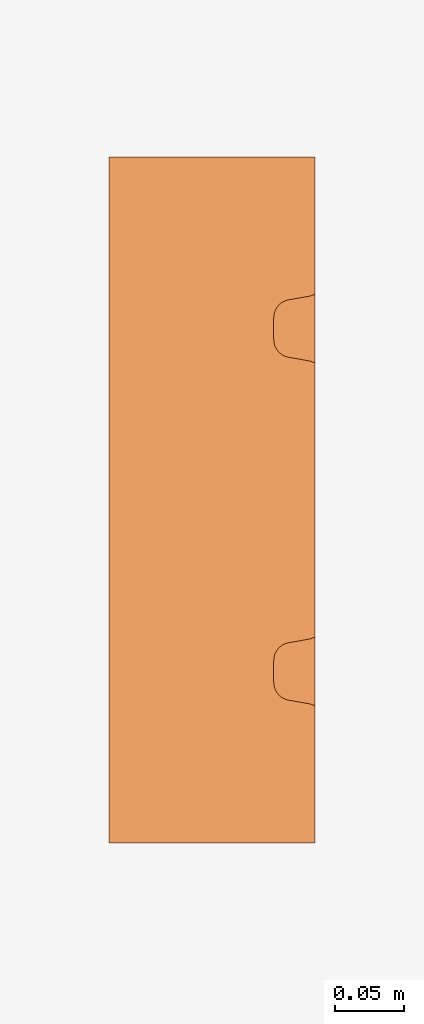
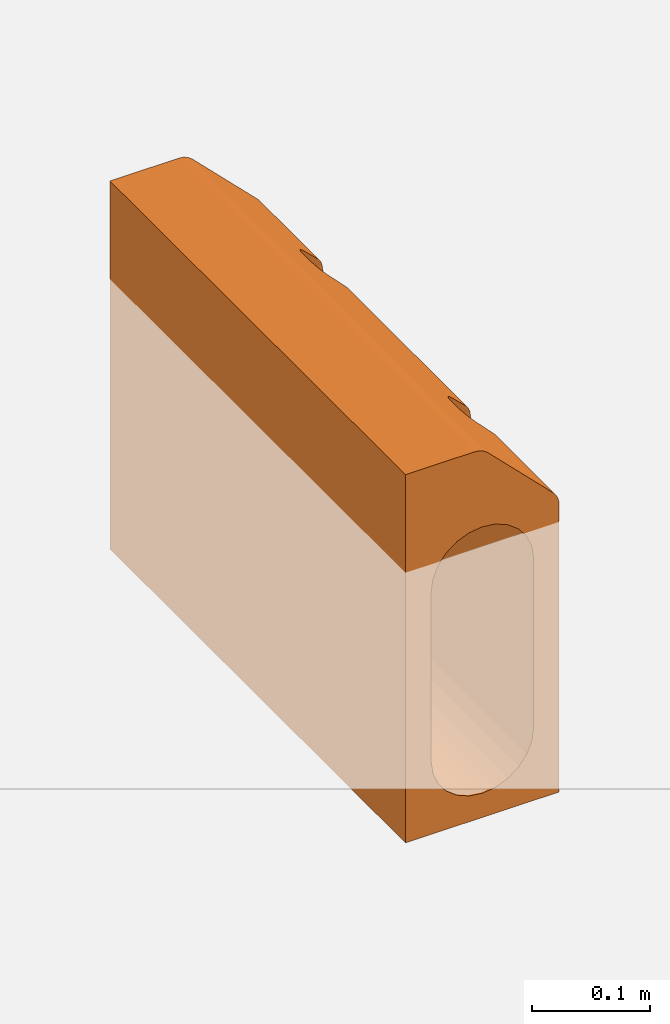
# One storey, part 2 of 2: 1 proxy.
"""IFC2X3 building model written with IfcOpenShell, lengths in millimetres."""

from ifc_helpers import new_model, entity, si_unit, converted_unit, direction, frame, origin, place, context, subcontext, project, spatial, faceted_brep, source, transform, mapped, material, element, save


model = new_model("IFC2X3")

# Units and contexts
model_context = context("Model", 3, precision=1e-06, world=origin(), true_north=direction((2.0, 6.12303176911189e-17, 1.0)))
context_of_model = context(None, 3, precision=1e-06, world=origin(), true_north=direction((2.0, 6.12303176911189e-17, 1.0)))
body_context = subcontext(model_context, "Body", "Model", "MODEL_VIEW")
ifc_project = project(units=[si_unit("LENGTHUNIT", "METRE", prefix="MILLI"), si_unit("AREAUNIT", "SQUARE_METRE", prefix="MILLI"), si_unit("VOLUMEUNIT", "CUBIC_METRE", prefix="MILLI"), converted_unit("PLANEANGLEUNIT", "DEGREE", entity("IfcRatioMeasure", 0.0174532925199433), si_unit("PLANEANGLEUNIT", "RADIAN"), dimensions=[0, 0, 0, 0, 0, 0, 0]), si_unit("TIMEUNIT", "SECOND")], contexts=[model_context, context_of_model])

# Site, building, storey
site_placement = place(None, origin())
site = spatial("IfcSite", under=ifc_project, at=site_placement, Name="Default", CompositionType="ELEMENT")
building_placement = place(site_placement, origin())
building = spatial("IfcBuilding", under=site, at=building_placement, CompositionType="ELEMENT")
storey_placement = place(building_placement, origin())
storey = spatial("IfcBuildingStorey", under=building, at=storey_placement, Name="Level 1", CompositionType="ELEMENT", Elevation=0.0)

# Proxy
ifc_material = material(Name="ACO Polymer Concrete.")
shared_shape = source(origin(), body_context, "Body", "Brep", [
    faceted_brep([(0.0, 149.975518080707, 20.0), (0.0, 149.732504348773, 23.1416949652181), (0.0, 149.090392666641, 26.2478408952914), (0.0, 100.024481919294, 20.0), (0.0, 145.924978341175, 44.1997976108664), (0.0, 145.056221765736, 47.101646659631), (0.0, 143.541670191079, 49.7249269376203), (0.0, 141.462973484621, 51.9282167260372), (0.0, 133.077147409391, 54.9804078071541), (0.0, 125.0, 54.9804078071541), (0.0, 138.932194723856, 53.5927361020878), (0.0, 136.085768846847, 54.6287503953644), (0.0, 104.075021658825, 44.1997976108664), (0.0, 100.909607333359, 26.2478408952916), (0.0, 100.267495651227, 23.141694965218), (0.0, 106.458329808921, 49.7249269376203), (0.0, 104.943778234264, 47.1016466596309), (0.0, 108.537026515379, 51.9282167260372), (0.0, 116.922852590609, 54.9804078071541), (0.0, 113.914231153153, 54.6287503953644), (0.0, 111.067805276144, 53.5927361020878), (75.0, 500.0, 17.1299423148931), (74.3525906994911, 500.0, 22.047504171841), (74.4002409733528, 399.879345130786, 21.866093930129), (75.0, 399.850708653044, 17.1299423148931), (72.6692508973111, 399.090392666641, 26.2478408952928), (72.4544826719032, 500.0, 26.6299423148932), (69.4350288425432, 500.0, 30.5649711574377), (71.20612764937, 398.689438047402, 28.5217675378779), (69.4350288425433, 398.329166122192, 30.5649711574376), (75.0, 100.149291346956, 17.1299423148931), (74.4002409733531, 100.120654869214, 21.8660939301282), (75.0, 0.0, 17.1299423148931), (74.3525906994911, 0.0, 22.047504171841), (72.6692508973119, 100.909607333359, 26.2478408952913), (71.2061276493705, 101.310561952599, 28.5217675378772), (69.4350288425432, 101.670833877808, 30.5649711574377), (69.4350288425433, 0.0, 30.5649711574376), (72.4544826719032, 0.0, 26.6299423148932), (-75.0, 500.0, -280.0), (-35.355339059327, 500.0, -240.355339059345), (-25.0, 500.0, -248.301270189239), (-43.3012701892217, 500.0, -230.0), (-12.9409522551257, 500.0, -253.296291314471), (0.0, 500.0, -255.0), (-50.0, 500.0, -30.0), (-50.0, 500.0, -205.0), (-75.0, 500.0, 100.0), (-48.2962913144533, 500.0, -217.940952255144), (-48.2962913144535, 500.0, -17.059047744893), (12.9409522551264, 500.0, -253.296291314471), (75.0, 500.0, -280.0), (25.0, 500.0, -248.301270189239), (35.3553390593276, 500.0, -240.355339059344), (43.3012701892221, 500.0, -230.0), (50.0, 500.0, -205.0), (50.0, 500.0, -30.0), (48.2962913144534, 500.0, -217.940952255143), (-35.3553390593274, 500.0, 5.35533905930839), (-43.301270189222, 500.0, -5.0), (-12.9409522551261, 500.0, 18.2962913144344), (-25.0, 500.0, 13.3012701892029), (-7.87005768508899, 500.0, 100.0), (5.56497115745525, 500.0, 94.4350288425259), (0.0, 500.0, 20.0), (-2.95249582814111, 500.0, 99.3525906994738), (1.62994231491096, 500.0, 97.4544826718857), (35.3553390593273, 500.0, 5.35533905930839), (30.1776695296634, 500.0, 9.32830462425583), (48.2962913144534, 500.0, -17.059047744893), (43.3012701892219, 500.0, -5.0), (39.3283046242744, 500.0, 0.17766952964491), (12.940952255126, 500.0, 18.2962913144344), (6.4704761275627, 500.0, 19.1481456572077), (25.0, 500.0, 13.3012701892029), (18.9704761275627, 500.0, 15.7987807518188), (-7.87005768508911, 0.0, 100.0), (5.56497115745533, 0.0, 94.4350288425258), (1.62994231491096, 0.0, 97.4544826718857), (-2.95249582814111, 0.0, 99.3525906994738), (-75.0, 0.0, 100.0), (-25.0, 0.0, 13.3012701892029), (-12.9409522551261, 0.0, 18.2962913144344), (-43.301270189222, 0.0, -5.0), (-35.3553390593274, 0.0, 5.35533905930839), (0.0, 0.0, 20.0), (-48.2962913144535, 0.0, -17.059047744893), (12.940952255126, 0.0, 18.2962913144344), (18.9704761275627, 0.0, 15.7987807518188), (25.0, 0.0, 13.3012701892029), (30.1776695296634, 0.0, 9.32830462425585), (35.3553390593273, 0.0, 5.35533905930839), (39.3283046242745, 0.0, 0.177669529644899), (43.3012701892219, 0.0, -5.0), (48.2962913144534, 0.0, -17.059047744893), (6.47047612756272, 0.0, 19.1481456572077), (-50.0, 0.0, -205.0), (-50.0, 0.0, -30.0), (-75.0, 0.0, -280.0), (-48.2962913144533, 0.0, -217.940952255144), (-43.3012701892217, 0.0, -230.0), (-35.355339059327, 0.0, -240.355339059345), (-25.0, 0.0, -248.301270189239), (-12.9409522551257, 0.0, -253.296291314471), (0.0, 0.0, -255.0), (75.0, 0.0, -280.0), (50.0, 0.0, -205.0), (48.2962913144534, 0.0, -217.940952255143), (43.3012701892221, 0.0, -230.0), (50.0, 0.0, -30.0), (12.9409522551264, 0.0, -253.296291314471), (35.3553390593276, 0.0, -240.355339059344), (25.0, 0.0, -248.301270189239), (0.0, 399.975518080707, 20.0), (0.0, 399.732504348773, 23.1416949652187), (0.0, 399.090392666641, 26.2478408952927), (0.0, 350.024481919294, 20.0), (0.0, 395.924978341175, 44.1997976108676), (0.0, 395.056221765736, 47.1016466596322), (0.0, 393.541670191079, 49.7249269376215), (0.0, 391.462973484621, 51.9282167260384), (0.0, 383.077147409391, 54.9804078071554), (0.0, 375.0, 54.9804078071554), (0.0, 388.932194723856, 53.592736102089), (0.0, 386.085768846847, 54.6287503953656), (0.0, 354.075021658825, 44.1997976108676), (0.0, 350.909607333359, 26.247840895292), (0.0, 350.267495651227, 23.1416949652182), (0.0, 356.458329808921, 49.7249269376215), (0.0, 354.943778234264, 47.1016466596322), (0.0, 358.537026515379, 51.9282167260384), (0.0, 366.922852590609, 54.9804078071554), (0.0, 363.914231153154, 54.6287503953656), (0.0, 361.067805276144, 53.592736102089), (8.76328451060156, 100.02557680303, 19.2260585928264), (21.2051679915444, 100.518872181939, 15.0683874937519), (25.1680716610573, 100.867702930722, 13.2037980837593), (35.0079638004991, 104.70744782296, 5.4810567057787), (37.813817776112, 106.640243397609, 2.71261507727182), (32.2021098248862, 102.77465224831, 8.24949833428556), (13.0027744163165, 100.097809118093, 18.0795177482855), (17.2422643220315, 100.170041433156, 16.9329769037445), (4.38164225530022, 100.025029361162, 19.6130292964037), (17.2422643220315, 149.829958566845, 16.9329769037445), (8.76328451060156, 149.97442319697, 19.2260585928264), (8.76328451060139, 350.02557680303, 19.2260585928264), (17.2422643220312, 350.170041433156, 16.9329769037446), (25.1680716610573, 149.132297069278, 13.2037980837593), (25.1680716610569, 350.867702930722, 13.2037980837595), (21.205167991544, 399.481127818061, 15.0683874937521), (17.2422643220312, 399.829958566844, 16.9329769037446), (13.0027744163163, 399.902190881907, 18.0795177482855), (8.76328451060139, 399.97442319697, 19.2260585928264), (4.38164225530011, 399.974970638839, 19.6130292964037), (28.6850907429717, 101.821177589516, 10.7266482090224), (32.2021098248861, 147.22534775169, 8.24949833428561), (32.2021098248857, 352.77465224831, 8.24949833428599), (37.813817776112, 143.359756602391, 2.71261507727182), (37.8138177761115, 356.64024339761, 2.71261507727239), (41.5463784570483, 112.859964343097, -2.18096987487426), (43.3012701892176, 120.955441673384, -5.0), (43.3012701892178, 129.044558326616, -5.0), (43.3012701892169, 370.955441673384, -5.0), (37.8138177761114, 393.359756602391, 2.71261507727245), (41.5463784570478, 387.140035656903, -2.18096987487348), (25.1680716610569, 399.132297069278, 13.2037980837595), (41.5463784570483, 137.140035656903, -2.18096987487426), (41.5463784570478, 362.859964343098, -2.18096987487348), (28.6850907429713, 398.178822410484, 10.7266482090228), (32.2021098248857, 397.22534775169, 8.24949833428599), (35.0079638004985, 395.292552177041, 5.48105670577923), (43.3012701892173, 379.044558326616, -5.0), (75.0, 114.722162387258, -3.11709981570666), (75.0, 120.955441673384, -5.0), (75.0, 109.187345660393, 0.312898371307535), (75.0, 129.044558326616, -5.0), (75.0, 140.812654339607, 0.312898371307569), (75.0, 135.277837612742, -3.11709981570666), (75.0, 364.722162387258, -3.11709981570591), (75.0, 359.187345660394, 0.312898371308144), (75.0, 354.727127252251, 5.05689832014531), (75.0, 145.27287274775, 5.05689832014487), (75.0, 101.644615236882, 10.7925066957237), (75.0, 104.727127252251, 5.05689832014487), (75.0, 351.644615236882, 10.7925066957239), (75.0, 149.850708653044, 17.1299423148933), (75.0, 148.355384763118, 10.7925066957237), (75.0, 370.955441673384, -5.0), (75.0, 385.277837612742, -3.11709981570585), (75.0, 379.044558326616, -5.0), (75.0, 390.812654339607, 0.312898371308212), (75.0, 350.149291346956, 17.1299423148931), (75.0, 274.049531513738, 17.1299423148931), (75.0, 211.950312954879, 17.1299423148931), (75.0, 398.355384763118, 10.7925066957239), (75.0, 395.272872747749, 5.05689832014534), (69.4350288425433, 148.329166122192, 30.5649711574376), (71.2061276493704, 148.689438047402, 28.5217675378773), (69.4350288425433, 224.428802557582, 30.5649711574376), (71.9592954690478, 209.218480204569, 27.4401745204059), (74.2106529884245, 241.48801231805, 22.549547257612), (71.9538163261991, 273.321126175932, 27.4486507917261), (74.400240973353, 350.120654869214, 21.8660939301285), (74.6738387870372, 291.409535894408, 20.6353303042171), (72.6692508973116, 350.909607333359, 26.2478408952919), (73.6587754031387, 299.219133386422, 24.1419071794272), (74.400240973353, 149.879345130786, 21.8660939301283), (72.6692508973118, 149.090392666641, 26.2478408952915), (71.2061276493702, 351.310561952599, 28.5217675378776), (69.4350288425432, 288.049818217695, 30.5649711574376), (69.4350288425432, 351.670833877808, 30.5649711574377), (55.8002023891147, 104.075021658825, 44.1997976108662), (53.2993718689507, 104.778646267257, 46.7006281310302), (50.987547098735, 105.963849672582, 49.0124529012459), (55.8002023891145, 145.924978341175, 44.1997976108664), (50.9875470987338, 355.963849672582, 49.0124529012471), (50.987547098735, 144.036150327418, 49.0124529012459), (53.2993718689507, 145.221353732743, 46.7006281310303), (53.2993718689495, 354.778646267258, 46.7006281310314), (55.8002023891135, 354.075021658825, 44.1997976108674), (48.9564035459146, 107.583632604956, 51.0435964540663), (47.2864862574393, 109.573762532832, 52.7135137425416), (46.0440158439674, 111.855320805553, 53.9559841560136), (45.2782624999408, 114.337832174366, 54.7217375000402), (45.0195921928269, 116.922852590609, 54.9804078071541), (45.0195921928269, 125.0, 54.9804078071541), (45.0195921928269, 133.077147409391, 54.9804078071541), (47.2864862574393, 140.426237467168, 52.7135137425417), (48.9564035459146, 142.416367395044, 51.0435964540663), (47.2864862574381, 359.573762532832, 52.7135137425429), (46.0440158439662, 361.855320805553, 53.9559841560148), (46.0440158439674, 138.144679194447, 53.9559841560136), (45.2782624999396, 364.337832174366, 54.7217375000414), (45.2782624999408, 135.662167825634, 54.7217375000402), (5.56497115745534, 423.900061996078, 94.4350288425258), (5.56497115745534, 347.800127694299, 94.4350288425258), (48.9564035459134, 357.583632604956, 51.0435964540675), (55.8002023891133, 395.924978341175, 44.1997976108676), (53.2993718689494, 395.221353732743, 46.7006281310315), (50.9875470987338, 394.036150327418, 49.0124529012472), (48.9564035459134, 392.416367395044, 51.0435964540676), (45.0195921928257, 366.922852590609, 54.9804078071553), (46.0440158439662, 388.144679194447, 53.9559841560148), (47.2864862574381, 390.426237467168, 52.7135137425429), (45.2782624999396, 385.662167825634, 54.7217375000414), (45.0195921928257, 375.0, 54.9804078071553), (45.0195921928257, 383.077147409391, 54.9804078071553), (-7.87005768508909, 423.90006193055, 100.0), (-2.60138830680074, 436.358183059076, 99.2548931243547), (-4.42459626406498, 379.790654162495, 99.6849885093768), (-0.599072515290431, 382.233262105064, 98.5537111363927), (1.08913984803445, 437.734711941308, 97.7550822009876), (-4.53194638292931, 114.149901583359, 99.7044650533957), (-2.35753488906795, 62.2652857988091, 99.1827416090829), (-0.599072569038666, 117.766733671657, 98.553711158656), (1.31258906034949, 63.6418145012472, 97.6336706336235), (-7.87005768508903, 152.199862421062, 100.0), (-3.00379585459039, 201.099933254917, 99.3662597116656), (5.56497115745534, 97.800127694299, 94.4350288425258), (1.08758675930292, 178.307130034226, 97.7559125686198), (2.78017236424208, 118.678927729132, 96.7344399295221), (1.44889748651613, 318.33849390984, 97.5576892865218), (-2.76687852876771, 295.349324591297, 99.3018458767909), (1.69337411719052, 244.901027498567, 97.4176969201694), (2.99559514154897, 385.850094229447, 96.5864552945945), (-7.87005768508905, 249.999993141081, 100.0), (-7.87005768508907, 347.800123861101, 100.0), (-7.87005768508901, 76.099924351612, 100.0), (5.56497115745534, 271.70019339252, 94.4350288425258), (5.56497115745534, 195.600255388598, 94.4350288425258)], [[[0, 1, 2, 3]], [[4, 5, 6, 7]], [[4, 8, 9, 2]], [[4, 7, 10, 11]], [[11, 8, 4]], [[9, 12, 13, 2]], [[13, 14, 3, 2]], [[15, 16, 12, 17]], [[18, 19, 12, 9]], [[20, 17, 12, 19]], [[21, 22, 23]], [[23, 24, 21]], [[22, 25, 23]], [[26, 27, 28]], [[26, 28, 25]], [[28, 27, 29]], [[26, 25, 22]], [[30, 31, 32]], [[33, 32, 31]], [[31, 34, 33]], [[35, 36, 37]], [[35, 38, 34]], [[38, 35, 37]], [[34, 38, 33]], [[39, 40, 41]], [[40, 39, 42]], [[41, 43, 39]], [[39, 43, 44]], [[45, 46, 39, 47]], [[48, 42, 39]], [[45, 47, 49]], [[46, 48, 39]], [[44, 50, 51, 39]], [[51, 52, 53]], [[52, 51, 50]], [[53, 54, 51]], [[21, 51, 55, 56]], [[57, 55, 51]], [[54, 57, 51]], [[58, 59, 47]], [[60, 61, 62, 63]], [[61, 58, 47, 62]], [[60, 63, 64]], [[62, 65, 66, 63]], [[59, 49, 47]], [[27, 21, 67, 68]], [[69, 70, 21]], [[21, 70, 71, 67]], [[69, 21, 56]], [[63, 27, 72, 73]], [[27, 26, 22, 21]], [[27, 74, 75, 72]], [[76, 77, 78, 79]], [[76, 80, 81, 82]], [[83, 84, 80]], [[77, 76, 82, 85]], [[84, 81, 80]], [[80, 86, 83]], [[37, 32, 33, 38]], [[37, 77, 87, 88]], [[37, 89, 90, 91]], [[91, 92, 32, 37]], [[32, 93, 94]], [[77, 85, 95, 87]], [[96, 97, 98]], [[96, 98, 99]], [[97, 86, 80, 98]], [[100, 98, 101]], [[98, 100, 99]], [[102, 101, 98]], [[103, 102, 98]], [[104, 103, 98, 105]], [[106, 107, 105, 32]], [[108, 105, 107]], [[94, 109, 32]], [[110, 104, 105]], [[111, 112, 105]], [[105, 112, 110]], [[111, 105, 108]], [[106, 32, 109]], [[39, 98, 80, 47]], [[105, 98, 39, 51]], [[55, 106, 109, 56]], [[108, 107, 57, 54]], [[111, 108, 54, 53]], [[110, 112, 52, 50]], [[112, 111, 53, 52]], [[104, 110, 50, 44]], [[107, 106, 55, 57]], [[102, 103, 43, 41]], [[101, 102, 41, 40]], [[99, 100, 42, 48]], [[100, 101, 40, 42]], [[96, 99, 48, 46]], [[44, 43, 103, 104]], [[45, 97, 96, 46]], [[113, 114, 115, 116]], [[117, 118, 119, 120]], [[117, 121, 122, 115]], [[117, 120, 123, 124]], [[124, 121, 117]], [[122, 125, 126, 115]], [[126, 127, 116, 115]], [[128, 129, 125, 130]], [[131, 132, 125, 122]], [[133, 130, 125, 132]], [[81, 84, 58, 61]], [[82, 81, 61, 60]], [[86, 97, 45, 49]], [[83, 86, 49, 59]], [[84, 83, 59, 58]], [[82, 0, 3, 85]], [[87, 95, 134]], [[135, 136, 89]], [[137, 138, 91, 139]], [[87, 134, 140, 141]], [[142, 134, 95]], [[143, 144, 145, 146]], [[147, 143, 146, 148]], [[142, 95, 85]], [[149, 150, 75]], [[0, 82, 60, 116]], [[3, 142, 85]], [[144, 0, 116, 145]], [[72, 150, 151, 152]], [[60, 64, 113, 116]], [[73, 152, 153]], [[153, 113, 64]], [[154, 139, 90]], [[72, 75, 150]], [[88, 141, 135]], [[90, 89, 154]], [[91, 90, 139]], [[155, 147, 148, 156]], [[73, 153, 64]], [[88, 135, 89]], [[157, 155, 156, 158]], [[92, 159, 93]], [[94, 93, 160, 161]], [[94, 161, 162, 69]], [[136, 154, 89]], [[163, 71, 164]], [[165, 149, 74]], [[160, 93, 159]], [[161, 166, 167, 162]], [[109, 94, 69, 56]], [[92, 138, 159]], [[166, 157, 158, 167]], [[68, 168, 74]], [[68, 169, 168]], [[75, 74, 149]], [[168, 165, 74]], [[67, 163, 170, 169]], [[92, 91, 138]], [[68, 67, 169]], [[73, 72, 152]], [[69, 162, 171, 70]], [[70, 171, 164]], [[67, 71, 163]], [[71, 70, 164]], [[88, 87, 141]], [[172, 32, 105, 173]], [[32, 172, 174]], [[175, 173, 105]], [[176, 177, 178, 179]], [[177, 175, 105, 51]], [[180, 181, 176, 179]], [[32, 182, 30]], [[182, 32, 183]], [[184, 185, 186, 180]], [[186, 181, 180]], [[32, 174, 183]], [[51, 187, 178, 177]], [[188, 189, 51, 21]], [[51, 189, 187]], [[21, 190, 188]], [[184, 191, 192, 193]], [[194, 195, 21]], [[21, 24, 194]], [[195, 190, 21]], [[196, 197, 198]], [[199, 200, 201]], [[191, 202, 203]], [[204, 205, 202]], [[193, 206, 185]], [[199, 198, 197]], [[205, 201, 200]], [[197, 207, 199]], [[203, 200, 192]], [[207, 200, 199]], [[208, 201, 204]], [[198, 199, 201]], [[200, 207, 206]], [[201, 205, 204]], [[208, 209, 201]], [[206, 193, 200]], [[200, 203, 205]], [[191, 203, 192]], [[202, 205, 203]], [[209, 208, 210]], [[209, 198, 201]], [[193, 192, 200]], [[37, 36, 211]], [[212, 77, 37, 211]], [[213, 77, 212]], [[214, 196, 198, 209]], [[215, 216, 217, 218]], [[219, 217, 214, 210]], [[77, 213, 220]], [[221, 222, 77]], [[77, 223, 224]], [[223, 77, 222]], [[77, 224, 225, 226]], [[221, 77, 220]], [[227, 228, 229, 230]], [[231, 227, 230, 232]], [[226, 233, 77]], [[231, 232, 233]], [[233, 63, 234, 235]], [[228, 216, 236, 229]], [[219, 218, 217]], [[29, 27, 237]], [[238, 237, 27, 63]], [[63, 239, 238]], [[239, 63, 240]], [[232, 241, 63, 233]], [[242, 243, 63]], [[244, 242, 63]], [[245, 246, 63, 241]], [[63, 246, 244]], [[243, 240, 63]], [[215, 236, 216]], [[62, 247, 248]], [[248, 249, 250]], [[234, 63, 66]], [[251, 65, 248]], [[252, 253, 254]], [[255, 253, 78]], [[256, 252, 257]], [[255, 254, 253]], [[258, 255, 77]], [[259, 254, 260]], [[261, 262, 263]], [[264, 251, 250]], [[256, 257, 265]], [[265, 257, 262]], [[262, 266, 265]], [[267, 252, 256]], [[254, 255, 260]], [[267, 76, 79]], [[235, 234, 264]], [[248, 250, 251]], [[235, 264, 261]], [[262, 257, 263]], [[262, 250, 249]], [[259, 257, 254]], [[268, 235, 261]], [[253, 267, 79]], [[257, 252, 254]], [[267, 253, 252]], [[78, 253, 79]], [[77, 255, 78]], [[260, 255, 258]], [[258, 269, 260]], [[259, 269, 263]], [[269, 259, 260]], [[257, 259, 263]], [[251, 234, 66]], [[261, 264, 250]], [[262, 261, 250]], [[263, 268, 261]], [[234, 251, 264]], [[65, 251, 66]], [[62, 248, 65]], [[249, 247, 266]], [[247, 249, 248]], [[262, 249, 266]], [[263, 269, 268]], [[47, 80, 76, 267]], [[161, 160, 173, 175]], [[138, 183, 174]], [[182, 183, 139]], [[159, 172, 160]], [[173, 160, 172]], [[174, 172, 159]], [[138, 174, 159]], [[183, 138, 137, 139]], [[182, 139, 154, 136]], [[30, 136, 135, 141]], [[182, 136, 30]], [[31, 30, 141]], [[34, 31, 14]], [[31, 141, 140, 134]], [[14, 134, 142, 3]], [[14, 31, 134]], [[34, 14, 13]], [[13, 12, 211, 36]], [[36, 35, 34, 13]], [[214, 4, 2, 196]], [[207, 197, 196, 2]], [[206, 207, 1]], [[143, 185, 206]], [[186, 185, 147]], [[185, 143, 147]], [[1, 207, 2]], [[1, 0, 144]], [[144, 206, 1]], [[144, 143, 206]], [[176, 181, 157]], [[177, 176, 166]], [[175, 177, 161]], [[147, 155, 186]], [[155, 181, 186]], [[157, 181, 155]], [[166, 176, 157]], [[166, 161, 177]], [[171, 162, 187, 189]], [[158, 180, 179]], [[184, 180, 156]], [[167, 178, 162]], [[187, 162, 178]], [[179, 178, 167]], [[158, 179, 167]], [[158, 156, 180]], [[156, 148, 184]], [[191, 148, 146]], [[184, 148, 191]], [[202, 191, 146]], [[204, 202, 127]], [[145, 202, 146]], [[116, 127, 145]], [[127, 202, 145]], [[204, 127, 126]], [[126, 125, 219, 210]], [[210, 208, 204, 126]], [[237, 117, 115, 29]], [[25, 28, 29, 115]], [[23, 25, 114]], [[150, 24, 23]], [[194, 24, 165]], [[24, 150, 149, 165]], [[114, 25, 115]], [[114, 113, 153, 152]], [[152, 23, 114]], [[23, 152, 151, 150]], [[190, 195, 163]], [[188, 190, 164]], [[189, 188, 171]], [[194, 165, 168, 169]], [[169, 195, 194]], [[195, 169, 170, 163]], [[164, 190, 163]], [[164, 171, 188]], [[16, 213, 212]], [[12, 212, 211]], [[16, 212, 12]], [[17, 220, 15]], [[213, 16, 15]], [[213, 15, 220]], [[20, 222, 221]], [[18, 224, 223]], [[19, 223, 222]], [[20, 221, 17]], [[19, 222, 20]], [[19, 18, 223]], [[220, 17, 221]], [[18, 9, 225, 224]], [[225, 9, 8, 226]], [[10, 227, 231]], [[11, 231, 233]], [[8, 233, 226]], [[11, 233, 8]], [[11, 10, 231]], [[10, 7, 227]], [[6, 216, 228]], [[4, 214, 217]], [[5, 217, 216]], [[6, 228, 7]], [[5, 216, 6]], [[5, 4, 217]], [[227, 7, 228]], [[129, 215, 218]], [[125, 218, 219]], [[129, 218, 125]], [[130, 236, 128]], [[215, 129, 128]], [[215, 128, 236]], [[133, 230, 229]], [[131, 241, 232]], [[132, 232, 230]], [[133, 229, 130]], [[132, 230, 133]], [[132, 131, 232]], [[236, 130, 229]], [[241, 131, 122, 245]], [[245, 122, 121, 246]], [[123, 243, 242]], [[124, 242, 244]], [[121, 244, 246]], [[124, 244, 121]], [[124, 123, 242]], [[123, 120, 243]], [[119, 239, 240]], [[117, 237, 238]], [[118, 238, 239]], [[119, 240, 120]], [[118, 239, 119]], [[118, 117, 238]], [[243, 120, 240]], [[27, 68, 74]], [[63, 73, 64]], [[32, 92, 93]], [[37, 88, 89]], [[184, 193, 185]], [[214, 209, 210]], [[233, 235, 268, 269]], [[233, 269, 258, 77]], [[47, 267, 256, 265]], [[47, 265, 266, 247]], [[47, 247, 62]]]),
])
proxy_placement = place(storey_placement, frame((-13330.2750822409, -1412.72179195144, 0.0)))
element("IfcBuildingElementProxy", 1, at=proxy_placement, inside=storey, material=ifc_material, Name="Civil-Drainage-Channel-ACO-KerbDrain-SP380:4240 - KDSP380 Channel -500mm LG:4240 - KDSP380 Channel -500mm LG", ObjectType="4240 - KDSP380 Channel -500mm LG", CompositionType="ELEMENT", context=body_context, shape_type="MappedRepresentation", body=[
    mapped(shared_shape, transform((0.0, 0.0, 0.0), scale=1.0)),
])

save(model, "model.ifc")
